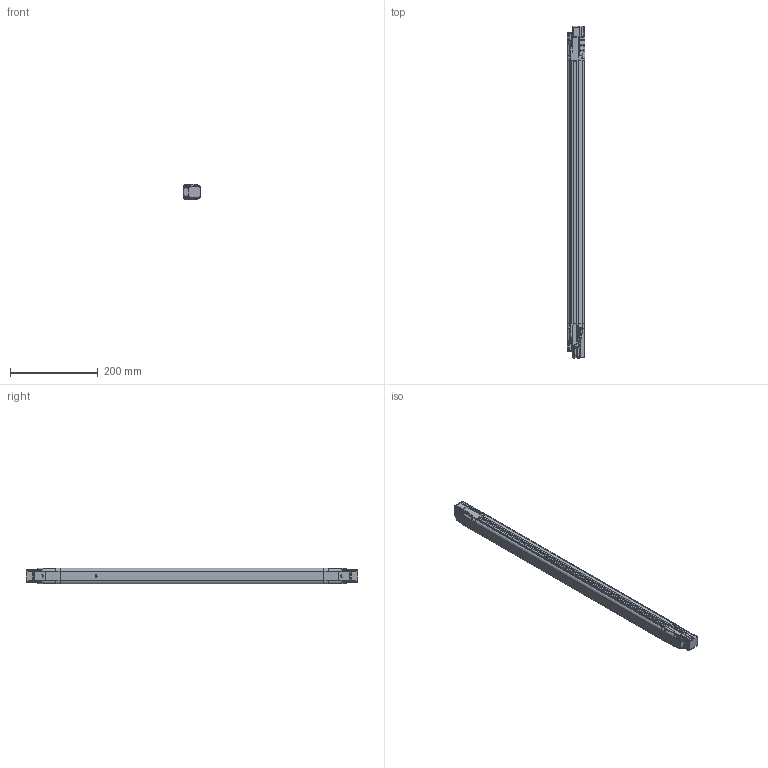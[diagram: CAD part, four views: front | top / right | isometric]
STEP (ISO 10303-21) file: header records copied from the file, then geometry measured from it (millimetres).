
FILE_DESCRIPTION((''),'2;1');
FILE_NAME('2012780_ASM','2013-06-14T',('rink'),(''),'PRO/ENGINEER BY PARAMETRIC TECHNOLOGY CORPORATION, 2011040','PRO/ENGINEER BY PARAMETRIC TECHNOLOGY CORPORATION, 2011040','');
FILE_SCHEMA(('AUTOMOTIVE_DESIGN_CC2 { 1 2 10303 214 -1 1 5 2 }'));
Products named in the file (4): 2012779; 2012768; 2008185; 2012780_ASM
Assembly tree (4 placements, depth 2):
  2012780_ASM
    2012779
    2012768  x2
    2008185
Bounding box: 40.95 x 756.2 x 35.02 mm (x, y, z)
Surface area: 145114 mm2
Topology: 15 solids, 156 shells, 2487 faces, 8492 edges, 5956 vertices
Faces by surface type: plane 1570, cylinder 523, bspline 175, cone 134, torus 65, sphere 20
Entity records: 98599 total; most frequent: CARTESIAN_POINT 26426, ORIENTED_EDGE 10092, DIRECTION 9545, PRESENTATION_STYLE_ASSIGNMENT 6587, STYLED_ITEM 6582, CURVE_STYLE 6468, EDGE_CURVE 6448, VERTEX_POINT 4571
